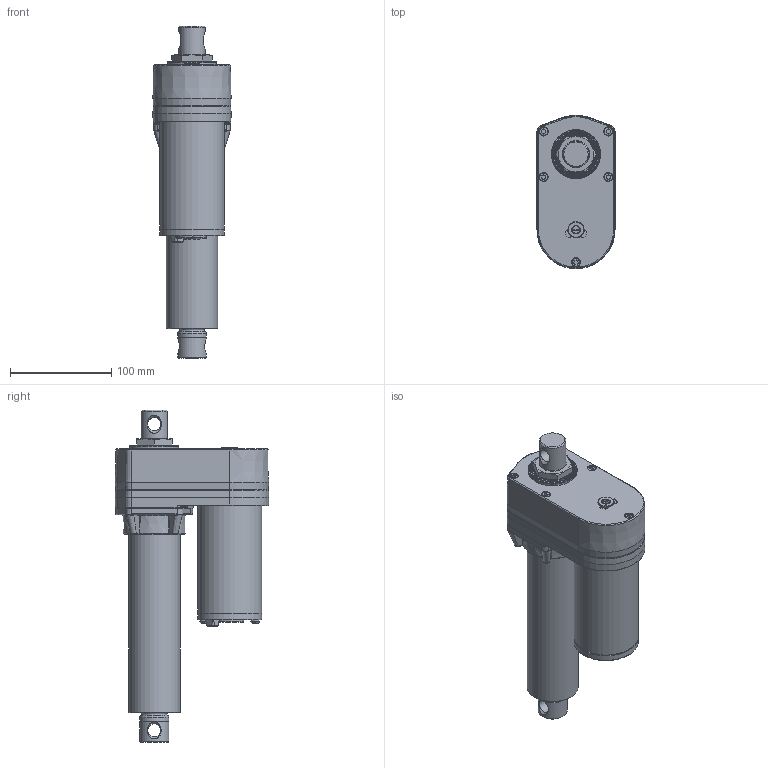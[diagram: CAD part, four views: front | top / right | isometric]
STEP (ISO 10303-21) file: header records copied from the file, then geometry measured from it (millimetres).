
FILE_DESCRIPTION (( 'STEP AP203' ), '1' );
FILE_NAME ('ID10II-B-With Manual Drive-102.STEP', '2014-06-10T09:51:39', ( '' ), ( '' ), 'SwSTEP 2.0', 'SolidWorks 2013', '' );
FILE_SCHEMA (( 'CONFIG_CONTROL_DESIGN' ));
Length unit declared in the file: millimetre
Products named in the file (3): ID10II-B-With Manual Drive-102-1; ID10II-B-With Manual Drive-102-2; ID10II-B-With Manual Drive-102
Assembly tree (2 placements, depth 2):
  ID10II-B-With Manual Drive-102
    ID10II-B-With Manual Drive-102-1
    ID10II-B-With Manual Drive-102-2
Bounding box: 77.15 x 151.65 x 327.8 mm (x, y, z)
Volume: 1454208.7 mm3; surface area: 138051 mm2
Topology: 2 solids, 2 shells, 846 faces, 2215 edges, 1402 vertices
Faces by surface type: plane 520, cylinder 144, bspline 100, torus 46, cone 36
Full cylindrical faces by diameter (mm): 8.5 x7, 9 x5, 13 x2, 16 x1, 26 x1, 28 x2, 28.1 x1, 28.6 x4, 28.62 x1, 48.2 x1, 50.8 x1, 63.2 x1, 63.5 x2
Entity records: 29785 total; most frequent: CARTESIAN_POINT 11273, ORIENTED_EDGE 4270, DIRECTION 3272, EDGE_CURVE 2135, VERTEX_POINT 1385, AXIS2_PLACEMENT_3D 1190, EDGE_LOOP 942, VECTOR 892
